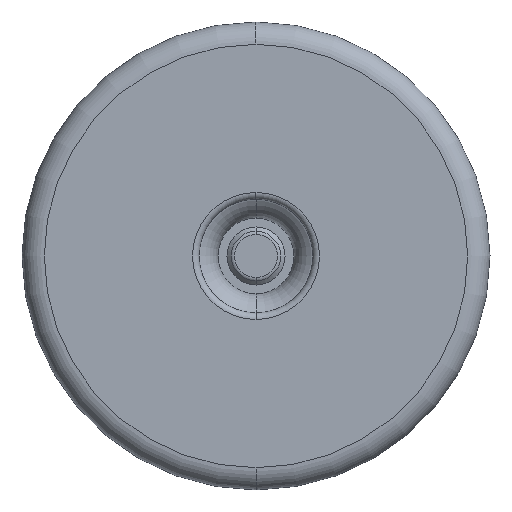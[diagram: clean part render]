
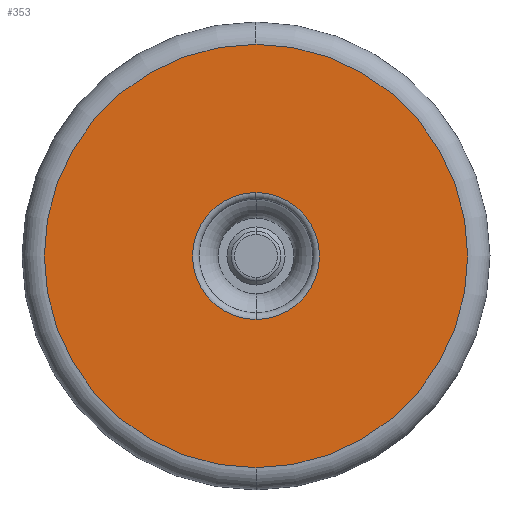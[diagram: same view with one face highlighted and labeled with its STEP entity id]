
A CAD part, left-side view. The second image highlights one B-rep face of the part: STEP entity #353.
In plain terms, the highlighted planar face has unit normal (-1, 0, 0).
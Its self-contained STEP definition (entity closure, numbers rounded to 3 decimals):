
#20 = ORIENTED_EDGE ( 'NONE', *, *, #1537, .F. ) ;
#40 = VERTEX_POINT ( 'NONE', #304 ) ;
#119 = CARTESIAN_POINT ( 'NONE',  ( 0., 0., 2.85 ) ) ;
#304 = CARTESIAN_POINT ( 'NONE',  ( 0., 0., -2.85 ) ) ;
#314 = CIRCLE ( 'NONE', #315, 9.5 ) ;
#315 = AXIS2_PLACEMENT_3D ( 'NONE', #316, #320, #321 ) ;
#316 = CARTESIAN_POINT ( 'NONE',  ( 0., 0., 0. ) ) ;
#320 = DIRECTION ( 'NONE',  ( 1., 0., 0. ) ) ;
#321 = DIRECTION ( 'NONE',  ( 0., 0., -1. ) ) ;
#353 = ADVANCED_FACE ( 'NONE', ( #642, #643 ), #644, .T. ) ;
#355 = EDGE_CURVE ( 'NONE', #40, #1254, #669, .T. ) ;
#393 = CARTESIAN_POINT ( 'NONE',  ( 0., 0., -9.5 ) ) ;
#574 = CIRCLE ( 'NONE', #575, 2.85 ) ;
#575 = AXIS2_PLACEMENT_3D ( 'NONE', #576, #577, #578 ) ;
#576 = CARTESIAN_POINT ( 'NONE',  ( 0., 0., 0. ) ) ;
#577 = DIRECTION ( 'NONE',  ( 1., 0., 0. ) ) ;
#578 = DIRECTION ( 'NONE',  ( 0., 0., -1. ) ) ;
#581 = CARTESIAN_POINT ( 'NONE',  ( 0., 0., 9.5 ) ) ;
#642 = FACE_BOUND ( 'NONE', #655, .T. ) ;
#643 = FACE_OUTER_BOUND ( 'NONE', #1164, .T. ) ;
#644 = PLANE ( 'NONE',  #645 ) ;
#645 = AXIS2_PLACEMENT_3D ( 'NONE', #646, #647, #648 ) ;
#646 = CARTESIAN_POINT ( 'NONE',  ( 0., 9.5, 0. ) ) ;
#647 = DIRECTION ( 'NONE',  ( -1., 0., 0. ) ) ;
#648 = DIRECTION ( 'NONE',  ( 0., 0., 1. ) ) ;
#655 = EDGE_LOOP ( 'NONE', ( #1483, #970 ) ) ;
#669 = CIRCLE ( 'NONE', #670, 2.85 ) ;
#670 = AXIS2_PLACEMENT_3D ( 'NONE', #671, #672, #673 ) ;
#671 = CARTESIAN_POINT ( 'NONE',  ( 0., 0., 0. ) ) ;
#672 = DIRECTION ( 'NONE',  ( 1., 0., 0. ) ) ;
#673 = DIRECTION ( 'NONE',  ( 0., 0., -1. ) ) ;
#970 = ORIENTED_EDGE ( 'NONE', *, *, #1466, .T. ) ;
#1017 = CIRCLE ( 'NONE', #1018, 9.5 ) ;
#1018 = AXIS2_PLACEMENT_3D ( 'NONE', #1019, #1020, #1021 ) ;
#1019 = CARTESIAN_POINT ( 'NONE',  ( 0., 0., 0. ) ) ;
#1020 = DIRECTION ( 'NONE',  ( 1., 0., 0. ) ) ;
#1021 = DIRECTION ( 'NONE',  ( 0., 0., -1. ) ) ;
#1058 = EDGE_CURVE ( 'NONE', #1181, #1201, #1017, .T. ) ;
#1164 = EDGE_LOOP ( 'NONE', ( #1261, #20 ) ) ;
#1181 = VERTEX_POINT ( 'NONE', #393 ) ;
#1201 = VERTEX_POINT ( 'NONE', #581 ) ;
#1254 = VERTEX_POINT ( 'NONE', #119 ) ;
#1261 = ORIENTED_EDGE ( 'NONE', *, *, #1058, .F. ) ;
#1466 = EDGE_CURVE ( 'NONE', #1254, #40, #574, .T. ) ;
#1483 = ORIENTED_EDGE ( 'NONE', *, *, #355, .T. ) ;
#1537 = EDGE_CURVE ( 'NONE', #1201, #1181, #314, .T. ) ;
